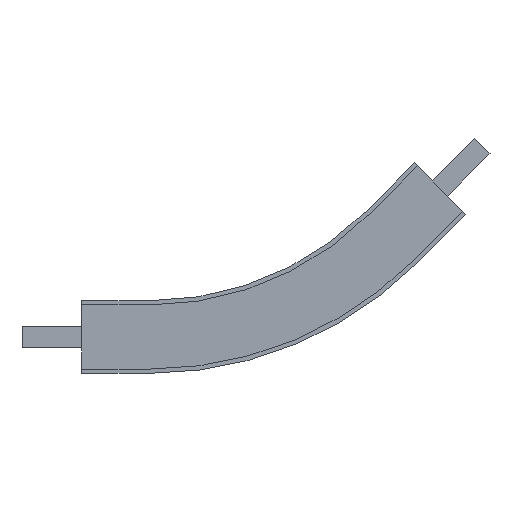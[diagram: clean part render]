
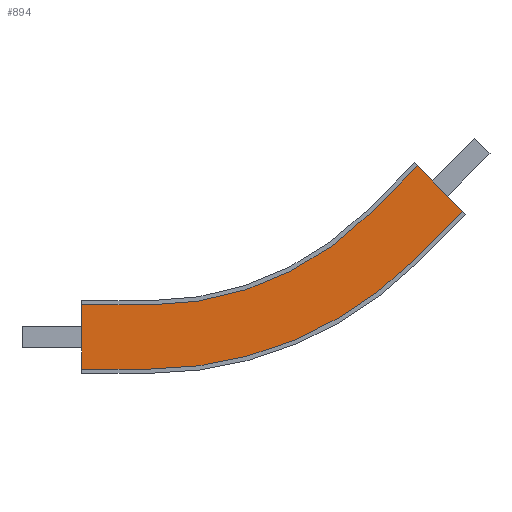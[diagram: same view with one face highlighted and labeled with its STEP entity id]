
A CAD part, front view. The second image highlights one B-rep face of the part: STEP entity #894.
In plain terms, the highlighted planar face has unit normal (0, -1, 0).
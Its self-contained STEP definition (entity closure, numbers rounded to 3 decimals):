
#41=CIRCLE('',#968,437.5);
#42=CIRCLE('',#970,362.5);
#84=FACE_OUTER_BOUND('',#136,.T.);
#136=EDGE_LOOP('',(#640,#641,#642,#643,#644,#645,#646,#647));
#185=LINE('',#1292,#295);
#187=LINE('',#1298,#297);
#197=LINE('',#1324,#307);
#198=LINE('',#1327,#308);
#199=LINE('',#1328,#309);
#200=LINE('',#1329,#310);
#295=VECTOR('',#1040,10.);
#297=VECTOR('',#1044,10.);
#307=VECTOR('',#1070,10.);
#308=VECTOR('',#1073,10.);
#309=VECTOR('',#1074,10.);
#310=VECTOR('',#1075,10.);
#402=VERTEX_POINT('',#1285);
#405=VERTEX_POINT('',#1290);
#407=VERTEX_POINT('',#1295);
#408=VERTEX_POINT('',#1297);
#410=VERTEX_POINT('',#1303);
#413=VERTEX_POINT('',#1310);
#416=VERTEX_POINT('',#1322);
#417=VERTEX_POINT('',#1326);
#489=EDGE_CURVE('',#402,#405,#185,.T.);
#491=EDGE_CURVE('',#407,#408,#187,.T.);
#496=EDGE_CURVE('',#410,#402,#41,.T.);
#498=EDGE_CURVE('',#413,#407,#42,.T.);
#505=EDGE_CURVE('',#416,#410,#197,.T.);
#506=EDGE_CURVE('',#416,#417,#198,.T.);
#507=EDGE_CURVE('',#408,#405,#199,.T.);
#508=EDGE_CURVE('',#417,#413,#200,.T.);
#640=ORIENTED_EDGE('',*,*,#506,.F.);
#641=ORIENTED_EDGE('',*,*,#505,.T.);
#642=ORIENTED_EDGE('',*,*,#496,.T.);
#643=ORIENTED_EDGE('',*,*,#489,.T.);
#644=ORIENTED_EDGE('',*,*,#507,.F.);
#645=ORIENTED_EDGE('',*,*,#491,.F.);
#646=ORIENTED_EDGE('',*,*,#498,.F.);
#647=ORIENTED_EDGE('',*,*,#508,.F.);
#848=PLANE('',#974);
#894=ADVANCED_FACE('',(#84),#848,.T.);
#968=AXIS2_PLACEMENT_3D('',#1307,#1052,#1053);
#970=AXIS2_PLACEMENT_3D('',#1312,#1057,#1058);
#974=AXIS2_PLACEMENT_3D('',#1325,#1071,#1072);
#1040=DIRECTION('',(0.707,0.,0.707));
#1044=DIRECTION('',(0.707,0.,0.707));
#1052=DIRECTION('center_axis',(0.,-1.,0.));
#1053=DIRECTION('ref_axis',(0.,0.,
-1.));
#1057=DIRECTION('center_axis',(0.,-1.,0.));
#1058=DIRECTION('ref_axis',(0.,0.,-1.));
#1070=DIRECTION('',(1.,0.,0.));
#1071=DIRECTION('center_axis',(0.,-1.,0.));
#1072=DIRECTION('ref_axis',(0.,0.,-1.));
#1073=DIRECTION('',(0.,0.,1.));
#1074=DIRECTION('',(0.707,0.,-0.707));
#1075=DIRECTION('',(1.,0.,0.));
#1285=CARTESIAN_POINT('',(389.359,-42.5,90.641));
#1290=CARTESIAN_POINT('',(445.928,-42.5,147.209));
#1292=CARTESIAN_POINT('',(389.359,-42.5,90.641));
#1295=CARTESIAN_POINT('',(336.326,-42.5,143.674));
#1297=CARTESIAN_POINT('',(392.895,-42.5,200.242));
#1298=CARTESIAN_POINT('',(336.326,-42.5,143.674));
#1303=CARTESIAN_POINT('',(80.,-42.5,-37.5));
#1307=CARTESIAN_POINT('Origin',(80.,-42.5,400.));
#1310=CARTESIAN_POINT('',(80.,-42.5,37.5));
#1312=CARTESIAN_POINT('Origin',(80.,-42.5,400.));
#1322=CARTESIAN_POINT('',(0.,-42.5,-37.5));
#1324=CARTESIAN_POINT('',(0.,-42.5,-37.5));
#1325=CARTESIAN_POINT('Origin',(0.,-42.5,37.5));
#1326=CARTESIAN_POINT('',(0.,-42.5,37.5));
#1327=CARTESIAN_POINT('',(0.,-42.5,-37.5));
#1328=CARTESIAN_POINT('',(445.928,-42.5,147.209));
#1329=CARTESIAN_POINT('',(0.,-42.5,37.5));
